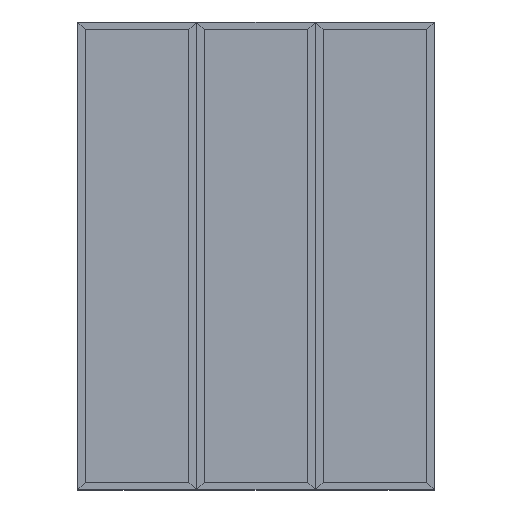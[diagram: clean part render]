
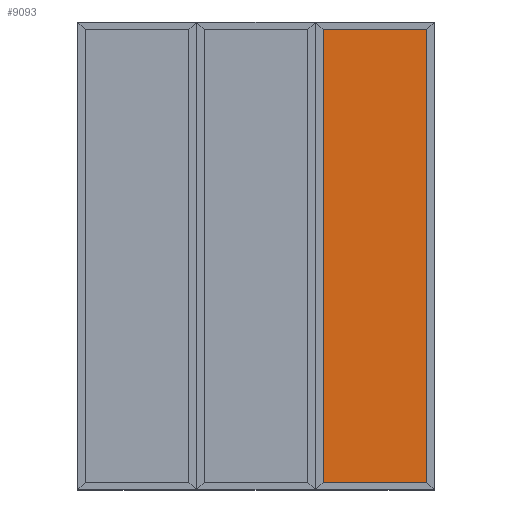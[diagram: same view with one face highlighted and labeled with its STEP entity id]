
A CAD part, top view. The second image highlights one B-rep face of the part: STEP entity #9093.
In plain terms, the highlighted planar face has unit normal (0, 0, 1).
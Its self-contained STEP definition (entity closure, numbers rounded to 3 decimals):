
#70 = DIRECTION ( 'NONE',  ( -1., 0., 0. ) ) ;
#354 = LINE ( 'NONE', #11066, #588 ) ;
#588 = VECTOR ( 'NONE', #9622, 1000. ) ;
#1358 = VERTEX_POINT ( 'NONE', #17982 ) ;
#1759 = ORIENTED_EDGE ( 'NONE', *, *, #3045, .F. ) ;
#2301 = DIRECTION ( 'NONE',  ( -1., 0., 0. ) ) ;
#3045 = EDGE_CURVE ( 'NONE', #1358, #6161, #6747, .T. ) ;
#3237 = CARTESIAN_POINT ( 'NONE',  ( -267.075, 1162.2, -13.25 ) ) ;
#4534 = LINE ( 'NONE', #4734, #14765 ) ;
#4631 = ORIENTED_EDGE ( 'NONE', *, *, #12945, .F. ) ;
#4734 = CARTESIAN_POINT ( 'NONE',  ( 267.075, 0., -13.25 ) ) ;
#5147 = CARTESIAN_POINT ( 'NONE',  ( 0., 0., -13.25 ) ) ;
#6161 = VERTEX_POINT ( 'NONE', #3237 ) ;
#6576 = FACE_OUTER_BOUND ( 'NONE', #9260, .T. ) ;
#6747 = LINE ( 'NONE', #10006, #7512 ) ;
#7512 = VECTOR ( 'NONE', #16227, 1000. ) ;
#8116 = LINE ( 'NONE', #17512, #10235 ) ;
#9093 = ADVANCED_FACE ( 'NONE', ( #6576 ), #16264, .F. ) ;
#9260 = EDGE_LOOP ( 'NONE', ( #4631, #11016, #17590, #1759 ) ) ;
#9622 = DIRECTION ( 'NONE',  ( -1., 0., 0. ) ) ;
#10006 = CARTESIAN_POINT ( 'NONE',  ( -267.075, 0., -13.25 ) ) ;
#10235 = VECTOR ( 'NONE', #70, 1000. ) ;
#10964 = VERTEX_POINT ( 'NONE', #13587 ) ;
#11016 = ORIENTED_EDGE ( 'NONE', *, *, #17897, .T. ) ;
#11066 = CARTESIAN_POINT ( 'NONE',  ( 0., -1162.2, -13.25 ) ) ;
#11756 = VERTEX_POINT ( 'NONE', #14017 ) ;
#12945 = EDGE_CURVE ( 'NONE', #10964, #1358, #354, .T. ) ;
#13217 = DIRECTION ( 'NONE',  ( 0., 0., -1. ) ) ;
#13587 = CARTESIAN_POINT ( 'NONE',  ( 267.075, -1162.2, -13.25 ) ) ;
#14017 = CARTESIAN_POINT ( 'NONE',  ( 267.075, 1162.2, -13.25 ) ) ;
#14765 = VECTOR ( 'NONE', #15437, 1000. ) ;
#15437 = DIRECTION ( 'NONE',  ( 0., 1., 0. ) ) ;
#16227 = DIRECTION ( 'NONE',  ( 0., 1., 0. ) ) ;
#16264 = PLANE ( 'NONE',  #18052 ) ;
#17512 = CARTESIAN_POINT ( 'NONE',  ( 0., 1162.2, -13.25 ) ) ;
#17590 = ORIENTED_EDGE ( 'NONE', *, *, #18869, .T. ) ;
#17897 = EDGE_CURVE ( 'NONE', #10964, #11756, #4534, .T. ) ;
#17982 = CARTESIAN_POINT ( 'NONE',  ( -267.075, -1162.2, -13.25 ) ) ;
#18052 = AXIS2_PLACEMENT_3D ( 'NONE', #5147, #13217, #2301 ) ;
#18869 = EDGE_CURVE ( 'NONE', #11756, #6161, #8116, .T. ) ;
